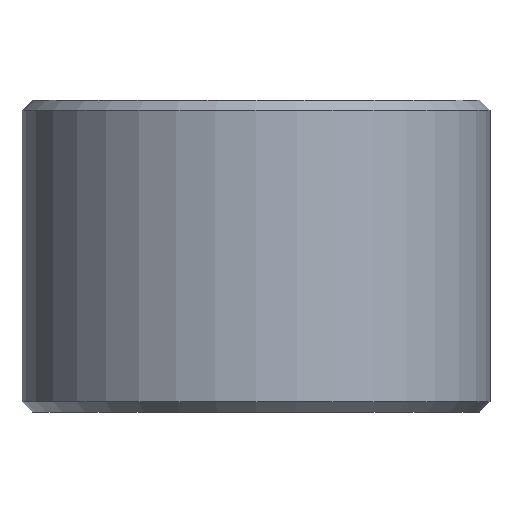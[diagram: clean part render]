
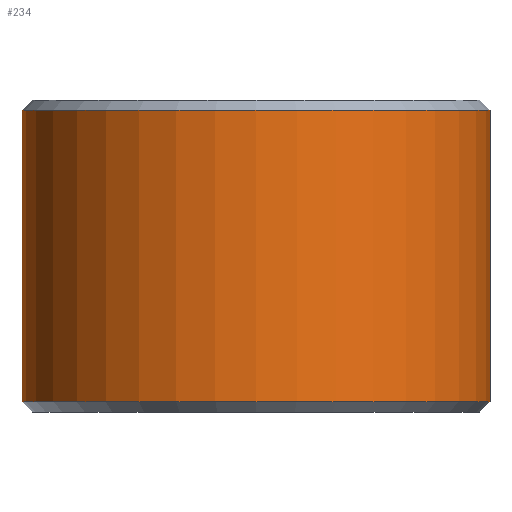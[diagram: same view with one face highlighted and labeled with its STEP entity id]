
A CAD part, front view. The second image highlights one B-rep face of the part: STEP entity #234.
In plain terms, the highlighted cylindrical face has radius 22.5 mm (diameter 45 mm), a partial arc.
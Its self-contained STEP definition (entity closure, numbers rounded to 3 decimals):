
#5 = CARTESIAN_POINT ( 'NONE',  ( -22.5, 0., 14. ) ) ;
#12 = CYLINDRICAL_SURFACE ( 'NONE', #81, 22.5 ) ;
#28 = CARTESIAN_POINT ( 'NONE',  ( 0., 0., 14. ) ) ;
#41 = EDGE_CURVE ( 'NONE', #394, #216, #164, .T. ) ;
#50 = VECTOR ( 'NONE', #239, 1000. ) ;
#59 = EDGE_CURVE ( 'NONE', #294, #394, #132, .T. ) ;
#61 = CARTESIAN_POINT ( 'NONE',  ( 0., 0., -14. ) ) ;
#63 = LINE ( 'NONE', #373, #334 ) ;
#69 = FACE_OUTER_BOUND ( 'NONE', #115, .T. ) ;
#81 = AXIS2_PLACEMENT_3D ( 'NONE', #280, #354, #249 ) ;
#93 = EDGE_CURVE ( 'NONE', #361, #216, #63, .T. ) ;
#100 = CARTESIAN_POINT ( 'NONE',  ( 22.5, 0., 14. ) ) ;
#107 = AXIS2_PLACEMENT_3D ( 'NONE', #61, #192, #161 ) ;
#109 = CIRCLE ( 'NONE', #155, 22.5 ) ;
#110 = CARTESIAN_POINT ( 'NONE',  ( 22.5, 0., -14. ) ) ;
#115 = EDGE_LOOP ( 'NONE', ( #432, #431, #252, #364 ) ) ;
#130 = DIRECTION ( 'NONE',  ( 1., 0., 0. ) ) ;
#132 = LINE ( 'NONE', #313, #50 ) ;
#155 = AXIS2_PLACEMENT_3D ( 'NONE', #28, #340, #130 ) ;
#161 = DIRECTION ( 'NONE',  ( 1., 0., 0. ) ) ;
#164 = CIRCLE ( 'NONE', #107, 22.5 ) ;
#192 = DIRECTION ( 'NONE',  ( 0., 0., 1. ) ) ;
#216 = VERTEX_POINT ( 'NONE', #110 ) ;
#234 = ADVANCED_FACE ( 'NONE', ( #69 ), #12, .T. ) ;
#239 = DIRECTION ( 'NONE',  ( 0., 0., -1. ) ) ;
#249 = DIRECTION ( 'NONE',  ( -1., 0., 0. ) ) ;
#252 = ORIENTED_EDGE ( 'NONE', *, *, #59, .T. ) ;
#274 = CARTESIAN_POINT ( 'NONE',  ( -22.5, 0., -14. ) ) ;
#280 = CARTESIAN_POINT ( 'NONE',  ( 0., 0., 15. ) ) ;
#294 = VERTEX_POINT ( 'NONE', #5 ) ;
#313 = CARTESIAN_POINT ( 'NONE',  ( -22.5, 0., 15. ) ) ;
#334 = VECTOR ( 'NONE', #378, 1000. ) ;
#340 = DIRECTION ( 'NONE',  ( 0., 0., -1. ) ) ;
#354 = DIRECTION ( 'NONE',  ( 0., 0., -1. ) ) ;
#360 = EDGE_CURVE ( 'NONE', #361, #294, #109, .T. ) ;
#361 = VERTEX_POINT ( 'NONE', #100 ) ;
#364 = ORIENTED_EDGE ( 'NONE', *, *, #41, .T. ) ;
#373 = CARTESIAN_POINT ( 'NONE',  ( 22.5, 0., 15. ) ) ;
#378 = DIRECTION ( 'NONE',  ( 0., 0., -1. ) ) ;
#394 = VERTEX_POINT ( 'NONE', #274 ) ;
#431 = ORIENTED_EDGE ( 'NONE', *, *, #360, .T. ) ;
#432 = ORIENTED_EDGE ( 'NONE', *, *, #93, .F. ) ;
